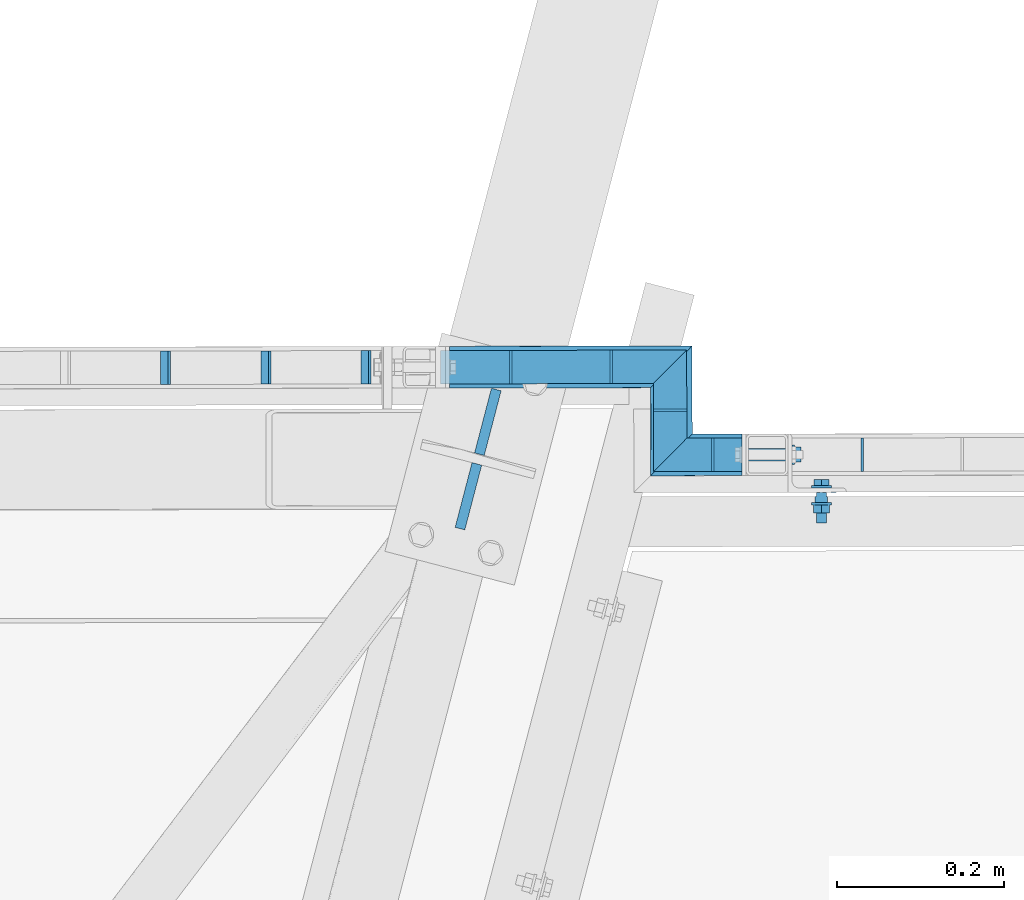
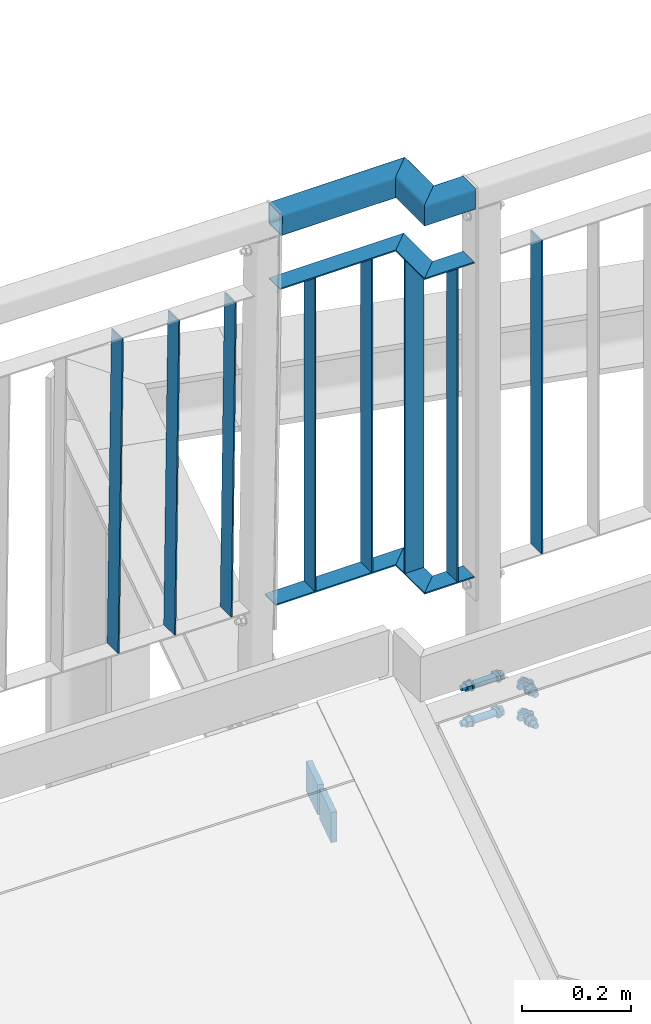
# One storey, part 128 of 169: 19 discrete accessories, 2 mechanical fasteners, 4 elements without a shape of their own.
"""IFC2X3 building model written with IfcOpenShell, lengths in millimetres."""

from ifc_helpers import new_model, si_unit, frame, frame_2d, origin_with_axes, origin_2d_with_axis, place, context, subcontext, project, spatial, polyline, circle_curve, parameter, trimmed, segment, composite_curve, rectangle, hollow_rectangle, circle, outline, extrude, boolean, clip, halfspace, source, transform, mapped, material, type_object, element, aggregate, save


model = new_model("IFC2X3")

# Units and contexts
model_context = context("Model", 3, precision=1e-05, world=origin_with_axes())
body_context = subcontext(model_context, "Body", "Model", "MODEL_VIEW")
ifc_project = project(units=[si_unit("LENGTHUNIT", "METRE", prefix="MILLI"), si_unit("AREAUNIT", "SQUARE_METRE"), si_unit("VOLUMEUNIT", "CUBIC_METRE"), si_unit("MASSUNIT", "GRAM", prefix="KILO"), si_unit("TIMEUNIT", "SECOND"), si_unit("PLANEANGLEUNIT", "RADIAN"), si_unit("SOLIDANGLEUNIT", "STERADIAN"), si_unit("THERMODYNAMICTEMPERATUREUNIT", "DEGREE_CELSIUS"), si_unit("LUMINOUSINTENSITYUNIT", "LUMEN")], contexts=[model_context])

# Site, building, storey
site_placement = place(None, origin_with_axes())
site = spatial("IfcSite", under=ifc_project, at=site_placement, Name="Undefined", CompositionType="ELEMENT")
building_placement = place(site_placement, origin_with_axes())
building = spatial("IfcBuilding", under=site, at=building_placement, Name="Undefined", CompositionType="ELEMENT")
storey_placement = place(building_placement, origin_with_axes())
storey = spatial("IfcBuildingStorey", under=building, at=storey_placement, Name="Undefined", CompositionType="ELEMENT", Elevation=0.0)

# Assembly, discrete accessories
assembly_1_placement = place(storey_placement, origin_with_axes())
assembly_1 = element("IfcElementAssembly", 1, at=assembly_1_placement, inside=storey, Name="Steel Assembly", AssemblyPlace="NOTDEFINED", PredefinedType="RIGID_FRAME")
ifc_material_1 = material(Name="STEEL/S235")
discrete_accessory_type_1 = type_object("IfcDiscreteAccessoryType", Name="BEAM")
discrete_accessory_1_placement = place(assembly_1_placement, frame((19007.8035078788, 2324.94240994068, 13546.2064052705), z_axis=(-0.967563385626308, 0.252628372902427, -1.72000000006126e-07), x_axis=(0.0, 0.0, 1.0)))
discrete_accessory_1 = element("IfcDiscreteAccessory", 2, at=discrete_accessory_1_placement, type_object=discrete_accessory_type_1, material=ifc_material_1, Name="BEAM", ObjectType="BL12*80", context=body_context, shape_type="Clipping", body=[
    clip(clip(extrude(outline(polyline([(38.9999999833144, -39.9999999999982), (38.9999999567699, 39.9999999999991), (106.210938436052, 39.9999999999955), (106.46973045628, -40.0000000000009), (38.9999999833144, -39.9999999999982)])), frame((-1.81898942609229e-12, -1.81898940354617e-12, -5.99999999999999), z_axis=(0.0, 0.0, 1.0), x_axis=(1.0, 0.0, 0.0)), (0.0, 0.0, 1.0), 12.0), halfspace(frame((109.584916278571, -1000.18884610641, 0.737697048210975), z_axis=(-0.9999191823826, -0.00323463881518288, 0.0122949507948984), x_axis=(-0.0122948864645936, -3.97727510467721e-05, -0.999924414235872)), True)), halfspace(frame((38.9999996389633, 1000.00000000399, 4.52928361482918e-09), z_axis=(1.0, 0.0, 0.0), x_axis=(-2.54700353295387e-10, 0.0, -1.0)), True)),
])
discrete_accessory_2_placement = place(assembly_1_placement, frame((18984.561697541, 2235.92657846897, 13546.2064052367), z_axis=(0.967563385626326, -0.252628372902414, 0.0), x_axis=(0.0, 0.0, 1.0)))
discrete_accessory_2 = element("IfcDiscreteAccessory", 3, at=discrete_accessory_2_placement, type_object=discrete_accessory_type_1, material=ifc_material_1, Name="BEAM", ObjectType="BL12*80", context=body_context, shape_type="Clipping", body=[
    clip(clip(extrude(outline(polyline([(38.9999999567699, 39.9999999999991), (106.767341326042, 40.0000000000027), (106.508549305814, -39.9999999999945), (38.9999999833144, -39.9999999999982), (38.9999999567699, 39.9999999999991)])), frame((-1.81898942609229e-12, -1.81898940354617e-12, -5.99999999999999), z_axis=(0.0, 0.0, 1.0), x_axis=(1.0, 0.0, 0.0)), (0.0, 0.0, 1.0), 12.0), halfspace(frame((109.882527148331, 1000.18884610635, -0.737697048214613), z_axis=(-0.9999191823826, 0.00323463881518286, -0.0122949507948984), x_axis=(-0.0122948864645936, 3.9772751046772e-05, 0.999924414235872)), True)), halfspace(frame((38.9999996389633, 1000.00000000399, 4.52928361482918e-09), z_axis=(1.0, 0.0, 0.0), x_axis=(-2.54700353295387e-10, 0.0, -1.0)), True)),
])
aggregate(assembly_1, [discrete_accessory_1, discrete_accessory_2])

assembly_2_placement = place(storey_placement, origin_with_axes())
assembly_2 = element("IfcElementAssembly", 4, at=assembly_2_placement, inside=storey, Name="Steel Assembly", AssemblyPlace="NOTDEFINED", PredefinedType="RIGID_FRAME")
discrete_accessory_type_2 = type_object("IfcDiscreteAccessoryType", Name="PORĘCZ")
discrete_accessory_3_placement = place(assembly_2_placement, frame((19225.8518484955, 2338.61649282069, 14021.9186384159), z_axis=(0.00172596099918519, -0.999998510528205, 0.0), x_axis=(0.0, 0.0, 1.0)))
discrete_accessory_3 = element("IfcDiscreteAccessory", 5, at=discrete_accessory_3_placement, type_object=discrete_accessory_type_2, material=ifc_material_1, Name="PORĘCZ", ObjectType="BL40*3", context=body_context, shape_type="Clipping", body=[
    clip(clip(extrude(outline(polyline([(-0.00155569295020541, 19.9999999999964), (701.998061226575, 19.9999999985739), (701.998066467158, -20.0000000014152), (-0.00155045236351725, -19.9999999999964), (-0.00155569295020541, 19.9999999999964)])), frame((1.81898940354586e-12, -1.77635442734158e-15, -1.50000000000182), z_axis=(0.0, 0.0, 1.0), x_axis=(1.0, 0.0, 0.0)), (0.0, 0.0, 1.0), 3.0), halfspace(frame((701.997932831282, 999.999999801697, 5.01795511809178e-08), z_axis=(-1.0, -3.46944695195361e-18, -1.38777878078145e-17), x_axis=(0.0, 0.0, 1.0)), True)), halfspace(frame((-0.0016840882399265, 1000.00000019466, -5.15819920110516e-08), z_axis=(1.0, 0.0, 0.0), x_axis=(-2.54700353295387e-10, 0.0, -1.0)), True)),
])
discrete_accessory_4_placement = place(assembly_2_placement, frame((19035.4173822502, 2390.47334370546, 14870.4186011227), z_axis=(-0.999998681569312, -0.00162384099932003, -2.17981851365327e-07), x_axis=(-2.54700353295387e-10, 0.0, -1.0)))
discrete_accessory_4 = element("IfcDiscreteAccessory", 6, at=discrete_accessory_4_placement, type_object=discrete_accessory_type_2, material=ifc_material_1, Name="PORĘCZ", ObjectType="BL40*3", context=body_context, shape_type="Clipping", body=[
    clip(clip(clip(extrude(outline(polyline([(848.499998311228, 19.9999999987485), (848.500000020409, -20.000000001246), (146.500383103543, -20.0000000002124), (146.500381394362, 19.9999999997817), (848.499998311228, 19.9999999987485)])), frame((1.81898940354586e-12, -1.77635442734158e-15, -1.50000000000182), z_axis=(0.0, 0.0, 1.0), x_axis=(1.0, 0.0, 0.0)), (0.0, 0.0, 1.0), 3.0), halfspace(frame((146.500339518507, 1000.00000006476, -1.23327481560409e-09), z_axis=(1.0, 0.0, 0.0), x_axis=(-2.54700353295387e-10, 0.0, -1.0)), True)), halfspace(frame((25.3344138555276, 1000.00000106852, -1.32422428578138e-09), z_axis=(1.0, 0.0, 0.0), x_axis=(-2.54700353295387e-10, 0.0, -1.0)), True)), halfspace(frame((848.499956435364, 999.999999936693, 2.33558239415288e-09), z_axis=(-1.0, -3.46944695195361e-18, -1.38777878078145e-17), x_axis=(0.0, 0.0, 1.0)), True)),
])
discrete_accessory_5_placement = place(assembly_2_placement, frame((19155.417224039, 2390.66820462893, 14870.4186210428), z_axis=(-0.999998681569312, -0.00162384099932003, -2.17981851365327e-07), x_axis=(-2.54700353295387e-10, 0.0, -1.0)))
discrete_accessory_5 = element("IfcDiscreteAccessory", 7, at=discrete_accessory_5_placement, type_object=discrete_accessory_type_2, material=ifc_material_1, Name="PORĘCZ", ObjectType="BL40*3", context=body_context, shape_type="Clipping", body=[
    clip(clip(clip(extrude(outline(polyline([(848.499998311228, 19.9999999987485), (848.500000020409, -20.000000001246), (146.500383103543, -20.0000000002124), (146.500381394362, 19.9999999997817), (848.499998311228, 19.9999999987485)])), frame((1.81898940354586e-12, -1.77635442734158e-15, -1.50000000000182), z_axis=(0.0, 0.0, 1.0), x_axis=(1.0, 0.0, 0.0)), (0.0, 0.0, 1.0), 3.0), halfspace(frame((146.500339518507, 1000.00000006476, -1.23327481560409e-09), z_axis=(1.0, 0.0, 0.0), x_axis=(-2.54700353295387e-10, 0.0, -1.0)), True)), halfspace(frame((25.3344138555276, 1000.00000106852, -1.32422428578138e-09), z_axis=(1.0, 0.0, 0.0), x_axis=(-2.54700353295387e-10, 0.0, -1.0)), True)), halfspace(frame((848.499956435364, 999.999999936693, 2.33558239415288e-09), z_axis=(-1.0, -3.46944695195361e-18, -1.38777878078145e-17), x_axis=(0.0, 0.0, 1.0)), True)),
])
discrete_accessory_6_placement = place(assembly_2_placement, frame((18946.9931000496, 2390.32975825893, 14020.4185873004), z_axis=(-2.54700353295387e-10, 0.0, -1.0), x_axis=(0.999998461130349, 0.00175434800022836, 1.66000001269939e-07)))
discrete_accessory_6 = element("IfcDiscreteAccessory", 8, at=discrete_accessory_6_placement, type_object=discrete_accessory_type_2, material=ifc_material_1, Name="PORĘCZ", ObjectType="BL40*3", context=body_context, shape_type="Clipping", body=[
    clip(clip(extrude(outline(polyline([(4.01548574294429, 20.0000000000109), (258.76870045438, 20.0000000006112), (298.769835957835, -19.999999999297), (4.01106569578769, -19.9999999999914), (4.01548574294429, 20.0000000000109)])), frame((1.81898940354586e-12, -1.77635442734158e-15, -1.50000000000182), z_axis=(0.0, 0.0, 1.0), x_axis=(1.0, 0.0, 0.0)), (0.0, 0.0, 1.0), 3.0), halfspace(frame((4.12337276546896, 999.999717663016, 0.0317833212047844), z_axis=(0.999919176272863, -0.000110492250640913, 0.0127133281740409), x_axis=(0.0127133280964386, -1.40469519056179e-06, -0.999919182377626)), True)), halfspace(frame((258.768700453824, 20.0000000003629, -6.3664629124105e-11), z_axis=(0.707096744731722, 0.707116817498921, -1.52359304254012e-10), x_axis=(-2.54700353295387e-10, 0.0, -1.0)), False)),
])
discrete_accessory_7_placement = place(assembly_2_placement, frame((19225.9092692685, 2305.45779971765, 14020.4170867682), z_axis=(0.0, 0.0, 1.0), x_axis=(-0.00172596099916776, 0.999998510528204, -4.30000000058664e-08)))
discrete_accessory_7 = element("IfcDiscreteAccessory", 9, at=discrete_accessory_7_placement, type_object=discrete_accessory_type_2, material=ifc_material_1, Name="PORĘCZ", ObjectType="BL40*3", context=body_context, shape_type="Clipping", body=[
    clip(clip(extrude(outline(polyline([(-40.0368342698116, 20.0000000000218), (65.360576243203, 19.9999999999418), (105.361711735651, -20.0000000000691), (-0.0489266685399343, -19.9999999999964), (-40.0368342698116, 20.0000000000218)])), frame((1.81898940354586e-12, -1.77635442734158e-15, -1.50000000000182), z_axis=(0.0, 0.0, 1.0), x_axis=(1.0, 0.0, 0.0)), (0.0, 0.0, 1.0), 3.0), halfspace(frame((65.3605762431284, 20.0000000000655, 0.00155047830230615), z_axis=(-0.707096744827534, -0.707116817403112, 1.49901430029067e-10), x_axis=(0.0, 0.0, 1.0)), True)), halfspace(frame((-0.0489266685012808, -20.0000000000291, -2.92857293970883e-10), z_axis=(-0.707213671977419, -0.706999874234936, 1.49941381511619e-10), x_axis=(-2.54700353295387e-10, 0.0, -1.0)), False)),
])
discrete_accessory_8_placement = place(assembly_2_placement, frame((18955.9930274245, 2390.34536734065, 14725.4182057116), z_axis=(-2.54700353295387e-10, 0.0, -1.0), x_axis=(0.999998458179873, 0.00175602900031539, 1.66000003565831e-07)))
discrete_accessory_8 = element("IfcDiscreteAccessory", 10, at=discrete_accessory_8_placement, type_object=discrete_accessory_type_2, material=ifc_material_1, Name="PORĘCZ", ObjectType="BL40*3", context=body_context, shape_type="Clipping", body=[
    clip(clip(extrude(outline(polyline([(3.9790101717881, 20.0000000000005), (249.768666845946, 19.9999999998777), (289.769869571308, -20.0000000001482), (3.9746573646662, -20.000000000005), (3.9790101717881, 20.0000000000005)])), frame((1.81898940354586e-12, -1.77635442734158e-15, -1.50000000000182), z_axis=(0.0, 0.0, 1.0), x_axis=(1.0, 0.0, 0.0)), (0.0, 0.0, 1.0), 3.0), halfspace(frame((4.08524981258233, 999.999722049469, 0.0317833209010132), z_axis=(0.999919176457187, -0.000108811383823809, 0.0127133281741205), x_axis=(0.0127133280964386, -1.40469519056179e-06, -0.999919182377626)), True)), halfspace(frame((249.768666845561, 20.0000000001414, -7.09405867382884e-11), z_axis=(0.707096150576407, 0.70711741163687, -1.52506155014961e-10), x_axis=(-2.54700353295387e-10, 0.0, -1.0)), False)),
])
discrete_accessory_9_placement = place(assembly_2_placement, frame((19225.9092100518, 2305.45787514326, 14725.4167036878), z_axis=(0.0, 0.0, 1.0), x_axis=(-0.00172596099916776, 0.999998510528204, -4.30000000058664e-08)))
discrete_accessory_9 = element("IfcDiscreteAccessory", 11, at=discrete_accessory_9_placement, type_object=discrete_accessory_type_2, material=ifc_material_1, Name="PORĘCZ", ObjectType="BL40*3", context=body_context, shape_type="Clipping", body=[
    clip(clip(extrude(outline(polyline([(-40.0368342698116, 20.0000000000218), (65.3607406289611, 19.9999999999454), (105.361943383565, -20.0000000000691), (-0.0489266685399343, -19.9999999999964), (-40.0368342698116, 20.0000000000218)])), frame((1.81898940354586e-12, -1.77635442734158e-15, -1.50000000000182), z_axis=(0.0, 0.0, 1.0), x_axis=(1.0, 0.0, 0.0)), (0.0, 0.0, 1.0), 3.0), halfspace(frame((65.3607406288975, 20.0000000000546, 0.00155047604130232), z_axis=(-0.707096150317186, -0.707117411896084, 1.49898321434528e-10), x_axis=(0.0, 0.0, 1.0)), True)), halfspace(frame((-0.0489266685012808, -20.0000000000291, -2.92857293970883e-10), z_axis=(-0.707213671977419, -0.706999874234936, 1.49941381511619e-10), x_axis=(-2.54700353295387e-10, 0.0, -1.0)), False)),
])
discrete_accessory_10_placement = place(assembly_2_placement, frame((19227.4077471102, 2310.39819914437, 14870.0841825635), z_axis=(-0.999998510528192, -0.00172596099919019, -1.65999999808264e-07), x_axis=(-0.00172596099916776, 0.999998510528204, -4.30000000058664e-08)))
discrete_accessory_10 = element("IfcDiscreteAccessory", 12, at=discrete_accessory_10_placement, type_object=discrete_accessory_type_2, material=ifc_material_1, Name="PORĘCZ", ObjectType="RHS50*3", context=body_context, shape_type="Clipping", body=[
    clip(clip(extrude(hollow_rectangle(XDim=50.0, YDim=50.0, WallThickness=3.0, InnerFilletRadius=3.0, OuterFilletRadius=6.0, at=origin_2d_with_axis()), frame((131.082001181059, 8.67427920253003e-22, -3.63794450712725e-12), z_axis=(-1.0, -3.46944695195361e-18, -1.38777878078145e-17), x_axis=(1.73472347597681e-18, -1.0, 0.0)), (0.0, 0.0, 1.0), 206.72), halfspace(frame((55.4178327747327, 2.70451891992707e-06, 25.0000000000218), z_axis=(-0.707106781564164, -2.34576254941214e-10, -0.707106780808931), x_axis=(1.73472347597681e-18, -1.0, 0.0)), True)), halfspace(frame((0.012266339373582, 4.5656634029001e-10, -25.0000000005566), z_axis=(-0.707244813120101, -1.49949406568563e-10, -0.706968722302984), x_axis=(0.0, 1.0, 0.0)), False)),
])
discrete_accessory_11_placement = place(assembly_2_placement, frame((19363.1607449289, 2391.05045642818, 14870.084198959), z_axis=(0.00172596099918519, -0.999998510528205, 0.0), x_axis=(-0.999998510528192, -0.00172596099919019, -1.65999999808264e-07)))
discrete_accessory_11 = element("IfcDiscreteAccessory", 13, at=discrete_accessory_11_placement, type_object=discrete_accessory_type_2, material=ifc_material_1, Name="PORĘCZ", ObjectType="RHS50*3", context=body_context, shape_type="Clipping", body=[
    clip(clip(extrude(hollow_rectangle(XDim=50.0, YDim=50.0, WallThickness=3.0, InnerFilletRadius=3.0, OuterFilletRadius=6.0, at=origin_2d_with_axis()), frame((427.013898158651, 0.0, 4.54727431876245e-13), z_axis=(-1.0, -3.46944695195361e-18, -1.38777878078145e-17), x_axis=(1.73472347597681e-18, -1.0, 0.0)), (0.0, 0.0, 1.0), 316.78), halfspace(frame((401.213700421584, 0.0317833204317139, 999.999643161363), z_axis=(-0.999919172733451, 0.0127133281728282, -0.000138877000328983), x_axis=(-0.012713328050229, -0.999919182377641, -1.76558428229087e-06)), True)), halfspace(frame((160.891998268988, -4.91127138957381e-11, 25.0000000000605), z_axis=(-0.707106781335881, -2.34577541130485e-10, 0.707106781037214), x_axis=(1.73472347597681e-18, -1.0, 0.0)), False)),
])
discrete_accessory_12_placement = place(assembly_2_placement, frame((19316.7442318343, 2285.5395143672, 14870.0826474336), z_axis=(0.00133551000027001, -0.999999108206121, 4.30000000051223e-08), x_axis=(-0.999999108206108, -0.00133551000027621, -1.65999999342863e-07)))
discrete_accessory_12 = element("IfcDiscreteAccessory", 14, at=discrete_accessory_12_placement, type_object=discrete_accessory_type_2, material=ifc_material_1, Name="PORĘCZ", ObjectType="RHS50*3", context=body_context, shape_type="Clipping", body=[
    clip(clip(extrude(hollow_rectangle(XDim=50.0, YDim=50.0, WallThickness=3.0, InnerFilletRadius=3.0, OuterFilletRadius=6.0, at=origin_2d_with_axis()), frame((114.608337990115, 0.0, -4.54752685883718e-13), z_axis=(-1.0, -3.46944695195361e-18, -1.38777878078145e-17), x_axis=(1.73472347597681e-18, -1.0, 0.0)), (0.0, 0.0, 1.0), 109.61), halfspace(frame((64.3032127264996, -0.0015510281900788, -25.0000000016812), z_axis=(-0.707244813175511, -1.15984903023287e-10, 0.706968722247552), x_axis=(0.0, 1.0, 0.0)), True)), halfspace(frame((4.70911161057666, 1.31214619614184e-07, 1000.00067925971), z_axis=(0.999999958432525, 5.19422913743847e-08, 0.00028833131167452), x_axis=(0.0, 1.0, 0.0)), True)),
])
discrete_accessory_13_placement = place(assembly_2_placement, frame((19188.7469870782, 2285.36207085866, 14725.4167005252), z_axis=(-2.54700353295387e-10, 0.0, -1.0), x_axis=(0.999998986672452, 0.0014236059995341, 1.66000002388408e-07)))
discrete_accessory_13 = element("IfcDiscreteAccessory", 15, at=discrete_accessory_13_placement, type_object=discrete_accessory_type_2, material=ifc_material_1, Name="PORĘCZ", ObjectType="BL40*3", context=body_context, shape_type="CSG", body=[
    boolean("DIFFERENCE", boolean("DIFFERENCE", boolean("DIFFERENCE", boolean("DIFFERENCE", extrude(outline(polyline([(17.2029000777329, 20.0000000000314), (123.003959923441, 20.0000000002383), (122.995950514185, -19.999999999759), (57.1908077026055, -19.9999999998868), (17.2029000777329, 20.0000000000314)])), frame((1.81898940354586e-12, -1.77635442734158e-15, -1.50000000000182), z_axis=(0.0, 0.0, 1.0), x_axis=(1.0, 0.0, 0.0)), (0.0, 0.0, 1.0), 3.0), extrude(rectangle(XDim=51.0, YDim=51.0, at=origin_2d_with_axis()), frame((153.000006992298, 6.15095513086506e-06, -139.999999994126), z_axis=(0.0, 0.0, 1.0), x_axis=(0.999999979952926, -0.00020023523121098, -8.39070382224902e-12)), (0.0, 0.0, 1.0), 280.0)), halfspace(frame((123.200190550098, 1000.00048053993, 1.31138222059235e-07), z_axis=(-0.999999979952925, 0.000200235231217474, 5.19385016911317e-08), x_axis=(0.0, 0.0, 1.0)), True)), halfspace(frame((57.1908077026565, -20.0000000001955, 2.14926694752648e-06), z_axis=(0.707213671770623, 0.706999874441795, -1.23632419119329e-10), x_axis=(0.0, 0.0, 1.0)), True)), halfspace(frame((128.200182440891, 1000.0049859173, 4.28150106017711e-05), z_axis=(-0.999999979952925, 0.000200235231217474, 5.19385016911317e-08), x_axis=(0.0, 0.0, 1.0)), True)),
])
discrete_accessory_14_placement = place(assembly_2_placement, frame((19276.73758536, 2285.47923607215, 14870.4170982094), z_axis=(-0.999998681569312, -0.00162384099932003, -2.17981851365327e-07), x_axis=(-2.54700353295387e-10, 0.0, -1.0)))
discrete_accessory_14 = element("IfcDiscreteAccessory", 16, at=discrete_accessory_14_placement, type_object=discrete_accessory_type_2, material=ifc_material_1, Name="PORĘCZ", ObjectType="BL40*3", context=body_context, shape_type="Clipping", body=[
    clip(clip(clip(extrude(outline(polyline([(848.499998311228, 19.9999999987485), (848.500000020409, -20.000000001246), (146.500383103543, -20.0000000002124), (146.500381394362, 19.9999999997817), (848.499998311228, 19.9999999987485)])), frame((1.81898940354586e-12, -1.77635442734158e-15, -1.50000000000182), z_axis=(0.0, 0.0, 1.0), x_axis=(1.0, 0.0, 0.0)), (0.0, 0.0, 1.0), 3.0), halfspace(frame((146.500339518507, 1000.00000006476, -1.23327481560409e-09), z_axis=(1.0, 0.0, 0.0), x_axis=(-2.54700353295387e-10, 0.0, -1.0)), True)), halfspace(frame((25.3344726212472, 999.999999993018, -4.64569893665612e-09), z_axis=(1.0, 0.0, 0.0), x_axis=(-2.54700353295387e-10, 0.0, -1.0)), True)), halfspace(frame((848.499956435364, 999.999999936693, 2.33558239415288e-09), z_axis=(-1.0, -3.46944695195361e-18, -1.38777878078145e-17), x_axis=(0.0, 0.0, 1.0)), True)),
])
discrete_accessory_15_placement = place(assembly_2_placement, frame((19188.7470462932, 2285.3619954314, 14020.4170836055), z_axis=(-2.54700353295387e-10, 0.0, -1.0), x_axis=(0.999998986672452, 0.0014236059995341, 1.66000002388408e-07)))
discrete_accessory_15 = element("IfcDiscreteAccessory", 17, at=discrete_accessory_15_placement, type_object=discrete_accessory_type_2, material=ifc_material_1, Name="PORĘCZ", ObjectType="BL40*3", context=body_context, shape_type="CSG", body=[
    boolean("DIFFERENCE", boolean("DIFFERENCE", boolean("DIFFERENCE", boolean("DIFFERENCE", extrude(outline(polyline([(17.2029000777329, 20.0000000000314), (123.004054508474, 20.0000000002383), (122.996045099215, -19.9999999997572), (57.1908077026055, -19.9999999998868), (17.2029000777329, 20.0000000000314)])), frame((1.81898940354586e-12, -1.77635442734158e-15, -1.50000000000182), z_axis=(0.0, 0.0, 1.0), x_axis=(1.0, 0.0, 0.0)), (0.0, 0.0, 1.0), 3.0), extrude(rectangle(XDim=51.0, YDim=51.0, at=origin_2d_with_axis()), frame((153.000006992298, 6.15095513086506e-06, -139.999999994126), z_axis=(0.0, 0.0, 1.0), x_axis=(0.999999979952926, -0.00020023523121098, -8.39070382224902e-12)), (0.0, 0.0, 1.0), 280.0)), halfspace(frame((123.200285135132, 1000.00048053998, 1.31160049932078e-07), z_axis=(-0.999999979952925, 0.000200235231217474, 5.19385016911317e-08), x_axis=(0.0, 0.0, 1.0)), True)), halfspace(frame((57.1908077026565, -20.0000000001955, 2.14926694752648e-06), z_axis=(0.707213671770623, 0.706999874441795, -1.23632419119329e-10), x_axis=(0.0, 0.0, 1.0)), True)), halfspace(frame((128.200234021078, 1000.00498590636, 4.28147122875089e-05), z_axis=(-0.999999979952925, 0.000200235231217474, 5.19385016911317e-08), x_axis=(0.0, 0.0, 1.0)), True)),
])
discrete_accessory_16_placement = place(assembly_2_placement, frame((19455.6737569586, 2285.76480484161, 14870.4171279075), z_axis=(-0.999998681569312, -0.00162384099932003, -2.17981851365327e-07), x_axis=(-2.54700353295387e-10, 0.0, -1.0)))
discrete_accessory_16 = element("IfcDiscreteAccessory", 18, at=discrete_accessory_16_placement, type_object=discrete_accessory_type_2, material=ifc_material_1, Name="PORĘCZ", ObjectType="BL40*3", context=body_context, shape_type="Clipping", body=[
    clip(clip(clip(extrude(outline(polyline([(848.499998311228, 19.9999999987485), (848.500000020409, -20.000000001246), (146.500383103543, -20.0000000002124), (146.500381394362, 19.9999999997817), (848.499998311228, 19.9999999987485)])), frame((1.81898940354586e-12, -1.77635442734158e-15, -1.50000000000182), z_axis=(0.0, 0.0, 1.0), x_axis=(1.0, 0.0, 0.0)), (0.0, 0.0, 1.0), 3.0), halfspace(frame((146.500339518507, 1000.00000006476, -1.23327481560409e-09), z_axis=(1.0, 0.0, 0.0), x_axis=(-2.54700353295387e-10, 0.0, -1.0)), True)), halfspace(frame((25.3344726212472, 999.999999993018, -4.64569893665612e-09), z_axis=(1.0, 0.0, 0.0), x_axis=(-2.54700353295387e-10, 0.0, -1.0)), True)), halfspace(frame((848.499956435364, 999.999999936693, 2.33558239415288e-09), z_axis=(-1.0, -3.46944695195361e-18, -1.38777878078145e-17), x_axis=(0.0, 0.0, 1.0)), True)),
])
aggregate(assembly_2, [discrete_accessory_3, discrete_accessory_4, discrete_accessory_5, discrete_accessory_6, discrete_accessory_7, discrete_accessory_8, discrete_accessory_9, discrete_accessory_10, discrete_accessory_11, discrete_accessory_12, discrete_accessory_13, discrete_accessory_14, discrete_accessory_15, discrete_accessory_16])

assembly_3_placement = place(storey_placement, origin_with_axes())
assembly_3 = element("IfcElementAssembly", 19, at=assembly_3_placement, inside=storey, Name="Steel Assembly", AssemblyPlace="NOTDEFINED", PredefinedType="RIGID_FRAME")
discrete_accessory_17_placement = place(assembly_3_placement, frame((18628.529380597, 2389.75755721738, 14877.4659547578), z_axis=(0.00186484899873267, -0.999998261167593, 4.28757666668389e-08), x_axis=(-0.012713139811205, -2.37511238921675e-05, -0.999919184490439)))
discrete_accessory_17 = element("IfcDiscreteAccessory", 20, at=discrete_accessory_17_placement, type_object=discrete_accessory_type_2, material=ifc_material_1, Name="PORĘCZ", ObjectType="BL40*3", context=body_context, shape_type="Clipping", body=[
    clip(clip(extrude(rectangle(XDim=3.0, YDim=40.0, at=origin_2d_with_axis()), frame((848.500000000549, 1.47191286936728e-15, -8.89750592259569e-16), z_axis=(-1.0, -3.46944695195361e-18, -1.38777878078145e-17), x_axis=(1.73472347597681e-18, -1.0, 0.0)), (0.0, 0.0, 1.0), 702.0), halfspace(frame((848.499999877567, 4.522007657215e-09, 1000.00000000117), z_axis=(-1.0, -3.46944695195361e-18, -1.38777878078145e-17), x_axis=(1.73472347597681e-18, -1.0, 0.0)), True)), halfspace(frame((146.499999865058, 4.97311702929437e-09, 1000.00000000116), z_axis=(1.0, 0.0, 0.0), x_axis=(0.0, 1.0, 0.0)), True)),
])
discrete_accessory_18_placement = place(assembly_3_placement, frame((18748.5194740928, 2389.98132097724, 14875.9403753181), z_axis=(0.00186484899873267, -0.999998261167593, 4.28757666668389e-08), x_axis=(-0.012713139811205, -2.37511238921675e-05, -0.999919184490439)))
discrete_accessory_18 = element("IfcDiscreteAccessory", 21, at=discrete_accessory_18_placement, type_object=discrete_accessory_type_2, material=ifc_material_1, Name="PORĘCZ", ObjectType="BL40*3", context=body_context, shape_type="Clipping", body=[
    clip(clip(extrude(rectangle(XDim=3.0, YDim=40.0, at=origin_2d_with_axis()), frame((848.500000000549, 1.47191286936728e-15, -8.89750592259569e-16), z_axis=(-1.0, -3.46944695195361e-18, -1.38777878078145e-17), x_axis=(1.73472347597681e-18, -1.0, 0.0)), (0.0, 0.0, 1.0), 702.0), halfspace(frame((848.499999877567, 4.522007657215e-09, 1000.00000000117), z_axis=(-1.0, -3.46944695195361e-18, -1.38777878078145e-17), x_axis=(1.73472347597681e-18, -1.0, 0.0)), True)), halfspace(frame((146.499999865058, 4.97311702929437e-09, 1000.00000000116), z_axis=(1.0, 0.0, 0.0), x_axis=(0.0, 1.0, 0.0)), True)),
])
discrete_accessory_19_placement = place(assembly_3_placement, frame((18868.5095675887, 2390.20508473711, 14874.4147958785), z_axis=(0.00186484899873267, -0.999998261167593, 4.28757666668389e-08), x_axis=(-0.012713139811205, -2.37511238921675e-05, -0.999919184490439)))
discrete_accessory_19 = element("IfcDiscreteAccessory", 22, at=discrete_accessory_19_placement, type_object=discrete_accessory_type_2, material=ifc_material_1, Name="PORĘCZ", ObjectType="BL40*3", context=body_context, shape_type="Clipping", body=[
    clip(clip(extrude(rectangle(XDim=3.0, YDim=40.0, at=origin_2d_with_axis()), frame((848.500000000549, 1.47191286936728e-15, -8.89750592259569e-16), z_axis=(-1.0, -3.46944695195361e-18, -1.38777878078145e-17), x_axis=(1.73472347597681e-18, -1.0, 0.0)), (0.0, 0.0, 1.0), 702.0), halfspace(frame((848.499999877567, 4.522007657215e-09, 1000.00000000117), z_axis=(-1.0, -3.46944695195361e-18, -1.38777878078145e-17), x_axis=(1.73472347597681e-18, -1.0, 0.0)), True)), halfspace(frame((146.499999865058, 4.97311702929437e-09, 1000.00000000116), z_axis=(1.0, 0.0, 0.0), x_axis=(0.0, 1.0, 0.0)), True)),
])
aggregate(assembly_3, [discrete_accessory_17, discrete_accessory_18, discrete_accessory_19])

# Assembly, mechanical fasteners
assembly_4_placement = place(storey_placement, origin_with_axes())
assembly_4 = element("IfcElementAssembly", 23, at=assembly_4_placement, inside=storey, Name="Steel Assembly", AssemblyPlace="NOTDEFINED", PredefinedType="RIGID_FRAME")
ifc_material_2 = material(Name="Undefined")
discrete_accessory_type_3 = type_object("IfcDiscreteAccessoryType", Name="Bolt assembly")
shared_shape_1 = source(origin_with_axes(), body_context, "Body", "SweptSolid", [
    extrude(circle(Radius=7.5, at=origin_2d_with_axis()), frame((0.0, 4.90510634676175, 0.0), z_axis=(0.0, 1.0, 0.0), x_axis=(1.0, 0.0, 0.0)), (0.0, 0.0, 1.0), 50.09),
    extrude(outline(composite_curve([segment(polyline([(7.5, 7.5), (7.5, -7.5)]), True, "CONTINUOUS"), segment(trimmed(circle_curve(frame_2d((0.0, -7.5), x_axis=(1.0, 0.0)), 7.5), [parameter(0.0)], [parameter(3.14159265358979)], False, "PARAMETER"), True, "CONTINUOUS"), segment(polyline([(-7.5, -7.5), (-7.5, 7.5)]), True, "CONTINUOUS"), segment(trimmed(circle_curve(frame_2d((0.0, 7.5), x_axis=(-1.0, 0.0)), 7.5), [parameter(0.0)], [parameter(3.14159265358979)], False, "PARAMETER"), True, "DISCONTINUOUS")], self_intersect=False)), frame((0.0, 0.100000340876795, 0.0), z_axis=(0.0, 1.0, 0.0), x_axis=(1.0, 0.0, 0.0)), (0.0, 0.0, 1.0), 5.0),
    extrude(outline(polyline([(10.39230484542, 0.0), (5.19615242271, 9.00000000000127), (-5.19615242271, 9.00000000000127), (-10.39230484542, 0.0), (-5.19615242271, -9.00000000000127), (5.19615242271, -9.00000000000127), (10.39230484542, 0.0)])), frame((0.0, -10.4999989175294, 0.0), z_axis=(0.0, 1.0, 0.0), x_axis=(1.0, 0.0, 0.0)), (0.0, 0.0, 1.0), 7.5),
    extrude(circle(Radius=6.0, at=origin_2d_with_axis()), frame((0.0, -3.00000607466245, 0.0), z_axis=(0.0, 1.0, 0.0), x_axis=(1.0, 0.0, 0.0)), (0.0, 0.0, 1.0), 80.0),
    extrude(circle(Radius=12.0, at=origin_2d_with_axis()), frame((0.0, -3.00000607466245, 0.0), z_axis=(0.0, 1.0, 0.0), x_axis=(1.0, 0.0, 0.0)), (0.0, 0.0, 1.0), 3.0),
    extrude(circle(Radius=12.0, at=origin_2d_with_axis()), frame((0.0, 54.9999999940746, 0.0), z_axis=(0.0, 1.0, 0.0), x_axis=(1.0, 0.0, 0.0)), (0.0, 0.0, 1.0), 3.0),
    extrude(outline(polyline([(10.96965511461, 0.0), (5.484827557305, 9.50000000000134), (-5.484827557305, 9.50000000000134), (-10.96965511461, 0.0), (-5.484827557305, -9.50000000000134), (5.484827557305, -9.50000000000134), (10.96965511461, 0.0)])), frame((0.0, 57.9999999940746, 0.0), z_axis=(0.0, 1.0, 0.0), x_axis=(1.0, 0.0, 0.0)), (0.0, 0.0, 1.0), 10.0),
])
mechanical_fastener_1_placement = place(assembly_4_placement, frame((19371.7520072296, 2285.62953938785, 13685.0826444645), z_axis=(0.00182808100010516, -0.999998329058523, 1.39259354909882e-07), x_axis=(0.0, 0.0, 1.0)))
mechanical_fastener_1 = element("IfcMechanicalFastener", 24, at=mechanical_fastener_1_placement, type_object=discrete_accessory_type_3, material=ifc_material_2, Name="Bolt assembly", NominalDiameter=12.0, NominalLength=80.0, context=body_context, shape_type="MappedRepresentation", body=[
    mapped(shared_shape_1, transform((0.0, 0.0, 0.0))),
    mapped(shared_shape_1, transform((79.9999999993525, -4.5446979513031e-13, -4.53637127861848e-13))),
])
shared_shape_2 = source(origin_with_axes(), body_context, "Body", "SweptSolid", [
    extrude(circle(Radius=7.5, at=origin_2d_with_axis()), frame((0.0, 9.88920789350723, 0.0), z_axis=(0.0, 1.0, 0.0), x_axis=(1.0, 0.0, 0.0)), (0.0, 0.0, 1.0), 7.1),
    extrude(outline(composite_curve([segment(polyline([(7.5, 10.0), (7.5, -10.0)]), True, "CONTINUOUS"), segment(trimmed(circle_curve(frame_2d((0.0, -10.0), x_axis=(1.0, 0.0)), 7.5), [parameter(0.0)], [parameter(3.14159265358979)], False, "PARAMETER"), True, "CONTINUOUS"), segment(polyline([(-7.5, -10.0), (-7.5, 10.0)]), True, "CONTINUOUS"), segment(trimmed(circle_curve(frame_2d((0.0, 10.0), x_axis=(-1.0, 0.0)), 7.5), [parameter(0.0)], [parameter(3.14159265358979)], False, "PARAMETER"), True, "DISCONTINUOUS")], self_intersect=False)), frame((0.0, 0.103000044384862, 0.0), z_axis=(0.0, 1.0, 0.0), x_axis=(1.0, 0.0, 0.0)), (0.0, 0.0, 1.0), 5.0),
    extrude(outline(polyline([(10.39230484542, 0.0), (5.19615242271, 9.00000000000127), (-5.19615242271, 9.00000000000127), (-10.39230484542, 0.0), (-5.19615242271, -9.00000000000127), (5.19615242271, -9.00000000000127), (10.39230484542, 0.0)])), frame((0.0, -10.4969999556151, 0.0), z_axis=(0.0, 1.0, 0.0), x_axis=(1.0, 0.0, 0.0)), (0.0, 0.0, 1.0), 7.5),
    extrude(circle(Radius=6.0, at=origin_2d_with_axis()), frame((0.0, -2.99699995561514, 0.0), z_axis=(0.0, 1.0, 0.0), x_axis=(1.0, 0.0, 0.0)), (0.0, 0.0, 1.0), 45.0),
    extrude(circle(Radius=12.0, at=origin_2d_with_axis()), frame((0.0, -2.99699995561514, 0.0), z_axis=(0.0, 1.0, 0.0), x_axis=(1.0, 0.0, 0.0)), (0.0, 0.0, 1.0), 3.0),
    extrude(circle(Radius=12.0, at=origin_2d_with_axis()), frame((0.0, 16.989207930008, 0.0), z_axis=(0.0, 1.0, 0.0), x_axis=(1.0, 0.0, 0.0)), (0.0, 0.0, 1.0), 3.0),
    extrude(outline(polyline([(10.96965511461, 0.0), (5.484827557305, 9.50000000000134), (-5.484827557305, 9.50000000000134), (-10.96965511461, 0.0), (-5.484827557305, -9.50000000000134), (5.484827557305, -9.50000000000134), (10.96965511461, 0.0)])), frame((0.0, 19.989207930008, 0.0), z_axis=(0.0, 1.0, 0.0), x_axis=(1.0, 0.0, 0.0)), (0.0, 0.0, 1.0), 10.0),
])
mechanical_fastener_2_placement = place(assembly_4_placement, frame((19406.8250658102, 2245.69658975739, 13690.082655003), z_axis=(0.999998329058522, 0.00182808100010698, 1.41745673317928e-07), x_axis=(0.0, 0.0, 1.0)))
mechanical_fastener_2 = element("IfcMechanicalFastener", 25, at=mechanical_fastener_2_placement, type_object=discrete_accessory_type_3, material=ifc_material_2, Name="Bolt assembly", NominalDiameter=12.0, NominalLength=45.0, context=body_context, shape_type="MappedRepresentation", body=[
    mapped(shared_shape_2, transform((0.0, 0.0, 0.0))),
    mapped(shared_shape_2, transform((70.0000000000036, -8.45830072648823e-11, -2.18278728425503e-11))),
])
aggregate(assembly_4, [mechanical_fastener_1, mechanical_fastener_2])

save(model, "model.ifc")
